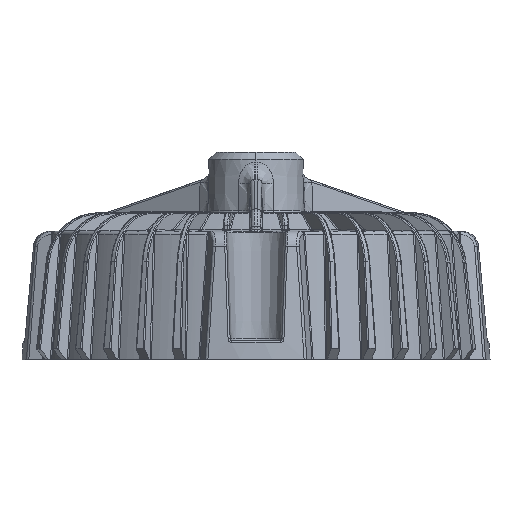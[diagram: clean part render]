
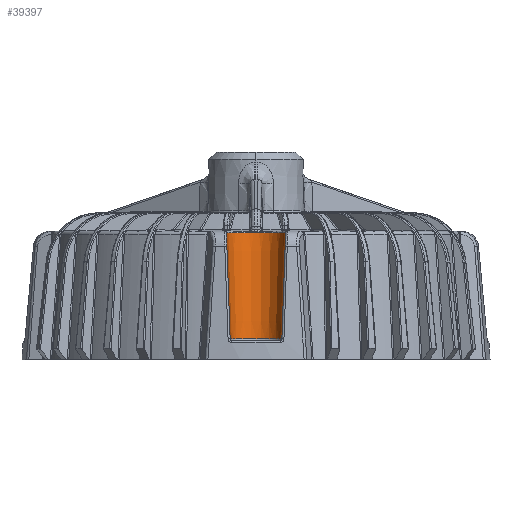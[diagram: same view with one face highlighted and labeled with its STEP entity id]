
A CAD part, top view. The second image highlights one B-rep face of the part: STEP entity #39397.
In plain terms, the highlighted conical face has half-angle 2 degrees and reference radius 7.483 mm.
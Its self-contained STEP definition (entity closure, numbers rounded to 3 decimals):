
#7369=CARTESIAN_POINT('',(106.81,40.026,-26.907));
#7435=DIRECTION('',(-0.025,-0.999,0.025));
#7436=VECTOR('',#7435,28.531);
#7437=CARTESIAN_POINT('',(118.093,40.026,-38.19));
#7438=LINE('',#7437,#7436);
#7439=DIRECTION('',(-0.025,0.999,0.025));
#7440=VECTOR('',#7439,28.531);
#7441=CARTESIAN_POINT('',(107.514,11.513,-27.611));
#7442=LINE('',#7441,#7440);
#7443=CARTESIAN_POINT('',(106.81,40.026,-26.907));
#7444=CARTESIAN_POINT('',(106.736,40.053,-26.979));
#7445=CARTESIAN_POINT('',(106.592,40.099,-27.126));
#7446=CARTESIAN_POINT('',(106.384,40.139,-27.358));
#7447=CARTESIAN_POINT('',(106.254,40.148,-27.516));
#7448=CARTESIAN_POINT('',(106.191,40.148,-27.595));
#7450=CARTESIAN_POINT('',(117.405,40.148,-38.809));
#7451=CARTESIAN_POINT('',(117.485,40.148,-38.746));
#7452=CARTESIAN_POINT('',(117.642,40.139,-38.616));
#7453=CARTESIAN_POINT('',(117.874,40.099,-38.408));
#7454=CARTESIAN_POINT('',(118.021,40.053,-38.264));
#7455=CARTESIAN_POINT('',(118.093,40.026,-38.19));
#7538=CARTESIAN_POINT('',(112.452,11.513,-32.548));
#7539=DIRECTION('',(0.,-1.,0.));
#7540=DIRECTION('',(-0.707,0.,0.707));
#7541=AXIS2_PLACEMENT_3D('',#7538,#7539,#7540);
#7579=CARTESIAN_POINT('',(112.452,40.148,-32.548));
#7580=DIRECTION('',(0.,1.,0.));
#7581=DIRECTION('',(0.62,0.,-0.784));
#7582=AXIS2_PLACEMENT_3D('',#7579,#7580,#7581);
#7584=CARTESIAN_POINT('',(112.452,40.148,-32.548));
#7585=DIRECTION('',(0.,1.,0.));
#7586=DIRECTION('',(0.,0.,-1.));
#7587=AXIS2_PLACEMENT_3D('',#7584,#7585,#7586);
#28987=VERTEX_POINT('',#7369);
#28988=CARTESIAN_POINT('',(106.191,40.148,
-27.595));
#28989=VERTEX_POINT('',#28988);
#28996=CARTESIAN_POINT('',(107.514,11.513,
-27.611));
#28997=VERTEX_POINT('',#28996);
#29000=CARTESIAN_POINT('',(118.093,40.026,
-38.19));
#29001=CARTESIAN_POINT('',(117.389,11.513,
-37.486));
#29002=VERTEX_POINT('',#29000);
#29003=VERTEX_POINT('',#29001);
#29004=CARTESIAN_POINT('',(112.452,40.148,
-40.532));
#29005=VERTEX_POINT('',#29004);
#29006=CARTESIAN_POINT('',(117.405,40.148,-38.809));
#29007=VERTEX_POINT('',#29006);
#39378=CARTESIAN_POINT('',(112.452,25.83,
-32.548));
#39379=DIRECTION('',(0.,1.,0.));
#39380=DIRECTION('',(-0.707,0.,0.707));
#39381=AXIS2_PLACEMENT_3D('',#39378,#39379,#39380);
#39382=CONICAL_SURFACE('',#39381,7.483,2.);
#39384=ORIENTED_EDGE('',*,*,#39383,.T.);
#39386=ORIENTED_EDGE('',*,*,#39385,.F.);
#39387=ORIENTED_EDGE('',*,*,#39371,.T.);
#39388=ORIENTED_EDGE('',*,*,#39268,.T.);
#39390=ORIENTED_EDGE('',*,*,#39389,.F.);
#39392=ORIENTED_EDGE('',*,*,#39391,.F.);
#39394=ORIENTED_EDGE('',*,*,#39393,.T.);
#39395=EDGE_LOOP('',(#39384,#39386,#39387,#39388,#39390,#39392,#39394));
#39396=FACE_OUTER_BOUND('',#39395,.F.);
#7449=B_SPLINE_CURVE_WITH_KNOTS('',3,(#7443,#7444,#7445,#7446,#7447,#7448),
.UNSPECIFIED.,.F.,.F.,(4,1,1,4),(0.,0.333,0.667,1.),
.UNSPECIFIED.);
#7456=B_SPLINE_CURVE_WITH_KNOTS('',3,(#7450,#7451,#7452,#7453,#7454,#7455),
.UNSPECIFIED.,.F.,.F.,(4,1,1,4),(0.,0.333,0.667,1.),
.UNSPECIFIED.);
#7542=CIRCLE('',#7541,6.983);
#7583=CIRCLE('',#7582,7.983);
#7588=CIRCLE('',#7587,7.983);
#39268=EDGE_CURVE('',#28987,#28989,#7449,.T.);
#39371=EDGE_CURVE('',#28997,#28987,#7442,.T.);
#39383=EDGE_CURVE('',#29002,#29003,#7438,.T.);
#39385=EDGE_CURVE('',#28997,#29003,#7542,.T.);
#39389=EDGE_CURVE('',#29005,#28989,#7588,.T.);
#39391=EDGE_CURVE('',#29007,#29005,#7583,.T.);
#39393=EDGE_CURVE('',#29007,#29002,#7456,.T.);
#39397=ADVANCED_FACE('',(#39396),#39382,.F.);
